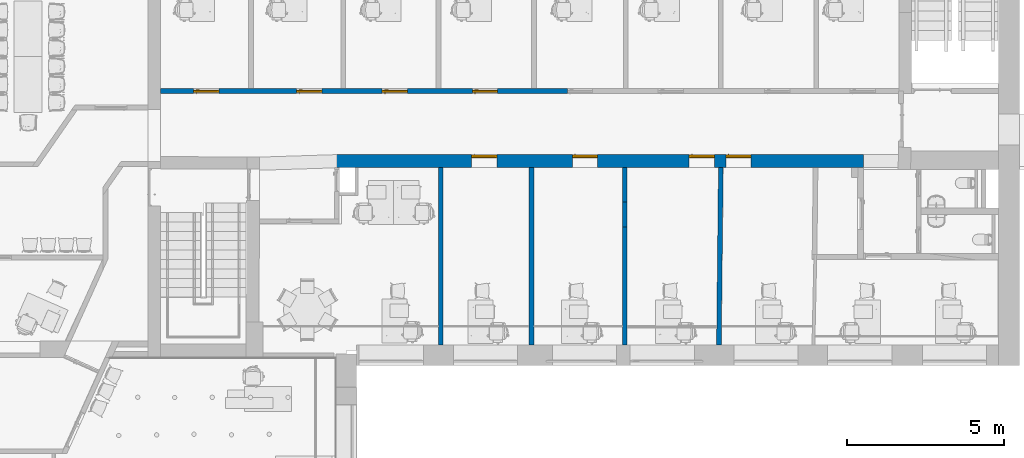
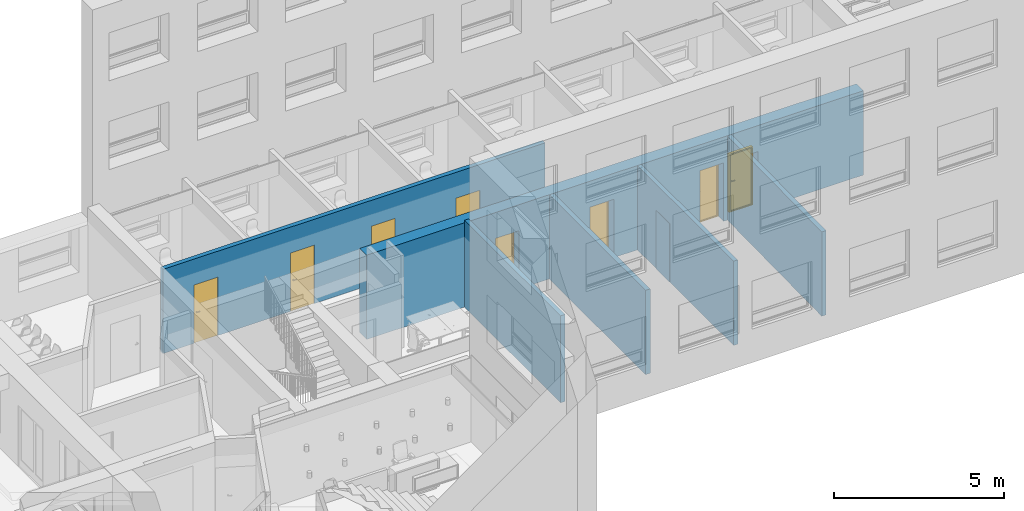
# One storey, part 7 of 25: 8 doors, 7 walls, 9 openings.
"""IFC2X3 building model written with IfcOpenShell, lengths in millimetres."""

from ifc_helpers import new_model, entity, si_unit, converted_unit, derived_unit, direction, frame, frame_2d, origin, place, context, subcontext, project, spatial, polyline, rectangle, outline, extrude, clip, bounded_halfspace, faceted_brep, source, transform, mapped, material, material_list, layer, layer_set, layer_usage, type_object, type_shapes, element, fill, save


model = new_model("IFC2X3")

# Units and contexts
model_context = context("Model", 3, precision=0.01, world=origin(), true_north=direction((6.12303176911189e-17, 1.0)))
context_of_model = context(None, 3, precision=0.01, world=origin(), true_north=direction((6.12303176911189e-17, 1.0)))
body_context = subcontext(model_context, "Body", "Model", "MODEL_VIEW")
ifc_project = project(units=[si_unit("LENGTHUNIT", "METRE", prefix="MILLI"), si_unit("AREAUNIT", "SQUARE_METRE"), si_unit("VOLUMEUNIT", "CUBIC_METRE"), converted_unit("PLANEANGLEUNIT", "DEGREE", entity("IfcRatioMeasure", 0.0174532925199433), si_unit("PLANEANGLEUNIT", "RADIAN"), dimensions=[0, 0, 0, 0, 0, 0, 0]), si_unit("MASSUNIT", "GRAM", prefix="KILO"), derived_unit("MASSDENSITYUNIT", [(si_unit("MASSUNIT", "GRAM", prefix="KILO"), 1), (si_unit("LENGTHUNIT", "METRE"), -3)]), si_unit("TIMEUNIT", "SECOND"), si_unit("FREQUENCYUNIT", "HERTZ"), si_unit("THERMODYNAMICTEMPERATUREUNIT", "DEGREE_CELSIUS"), derived_unit("THERMALTRANSMITTANCEUNIT", [(si_unit("MASSUNIT", "GRAM", prefix="KILO"), 1), (si_unit("THERMODYNAMICTEMPERATUREUNIT", "KELVIN"), -1), (si_unit("TIMEUNIT", "SECOND"), -3)]), derived_unit("VOLUMETRICFLOWRATEUNIT", [(si_unit("LENGTHUNIT", "METRE"), 3), (si_unit("TIMEUNIT", "SECOND"), -1)]), si_unit("ELECTRICCURRENTUNIT", "AMPERE"), si_unit("ELECTRICVOLTAGEUNIT", "VOLT"), si_unit("POWERUNIT", "WATT"), si_unit("FORCEUNIT", "NEWTON", prefix="KILO"), si_unit("ILLUMINANCEUNIT", "LUX"), si_unit("LUMINOUSFLUXUNIT", "LUMEN"), si_unit("LUMINOUSINTENSITYUNIT", "CANDELA"), derived_unit("USERDEFINED", [(si_unit("MASSUNIT", "GRAM", prefix="KILO"), -1), (si_unit("LENGTHUNIT", "METRE"), -2), (si_unit("TIMEUNIT", "SECOND"), 3), (si_unit("LUMINOUSFLUXUNIT", "LUMEN"), 1)]), derived_unit("LINEARVELOCITYUNIT", [(si_unit("LENGTHUNIT", "METRE"), 1), (si_unit("TIMEUNIT", "SECOND"), -1)]), si_unit("PRESSUREUNIT", "PASCAL"), derived_unit("USERDEFINED", [(si_unit("LENGTHUNIT", "METRE"), -2), (si_unit("MASSUNIT", "GRAM", prefix="KILO"), 1), (si_unit("TIMEUNIT", "SECOND"), -2)])], contexts=[model_context, context_of_model])

# Site, building, storey
site_placement = place(None, frame((121442.264707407, 135347.995453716, -1800.0)))
site = spatial("IfcSite", under=ifc_project, at=site_placement, Name="Surface", CompositionType="ELEMENT")
building_placement = place(site_placement, origin())
building = spatial("IfcBuilding", under=site, at=building_placement, CompositionType="ELEMENT")
storey_placement = place(building_placement, frame((0.0, 0.0, 1800.0)))
storey = spatial("IfcBuildingStorey", under=building, at=storey_placement, Name="1 korrus", CompositionType="ELEMENT", Elevation=1800.00000000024)

# Wall
ifc_material_1 = material(Name="__Betoonelement")
ifc_layer_1 = layer(ifc_material_1, 150.0)
ifc_layer_set_1 = layer_set([ifc_layer_1], Name="Basic Wall:15_Betoon")
ifc_layer_usage_1 = layer_usage(ifc_layer_set_1, "AXIS2", "POSITIVE", -75.0)
wall_type_1 = type_object("IfcWallType", Name="Basic Wall:15_Betoon", PredefinedType="STANDARD", material=ifc_layer_set_1)
wall_1_placement = place(storey_placement, frame((-91459.5491918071, -127136.784746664, 0.0), z_axis=(0.0, 0.0, 1.0), x_axis=(0.0107164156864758, 0.999942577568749, 0.0)))
element("IfcWallStandardCase", 1, at=wall_1_placement, inside=storey, type_object=wall_type_1, material=ifc_layer_usage_1, Name="Basic Wall:15_Betoon", ObjectType="Basic Wall:15_Betoon", context=body_context, shape_type="Clipping", body=[
    clip(extrude(outline(polyline([(5673.85441543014, -75.0), (5672.24686076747, 75.0), (0.0, 75.0), (1.60755466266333, -75.0), (5673.85441543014, -75.0)])), origin(), (0.0, 0.0, 1.0), 3032.0), bounded_halfspace(frame((1.60755466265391, -75.0, 3032.0), z_axis=(0.0, 0.0, -1.0), x_axis=(-0.999942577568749, -0.0107164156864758, 0.0)), True, frame((1.60755466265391, -75.0, 3032.0)), polyline([(0.0, 0.0), (5672.24686076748, 0.0), (5670.63930610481, 150.0), (-1.60755466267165, 150.0), (0.0, 0.0)]))),
])

# Wall, opening
ifc_layer_2 = layer(ifc_material_1, 140.0)
ifc_layer_set_2 = layer_set([ifc_layer_2], Name="Basic Wall:14_Betoon 2")
ifc_layer_usage_2 = layer_usage(ifc_layer_set_2, "AXIS2", "NEGATIVE", 70.0)
wall_type_2 = type_object("IfcWallType", Name="Basic Wall:14_Betoon 2", PredefinedType="STANDARD", material=ifc_layer_set_2)
wall_2_placement = place(storey_placement, frame((-94462.6040649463, -127135.981015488, 0.0), z_axis=(0.0, 0.0, 1.0), x_axis=(0.0, 1.0, 0.0)))
wall_2 = element("IfcWallStandardCase", 2, at=wall_2_placement, inside=storey, type_object=wall_type_2, material=ifc_layer_usage_2, Name="Basic Wall:14_Betoon 2", ObjectType="Basic Wall:14_Betoon 2", context=body_context, shape_type="Clipping", body=[
    clip(extrude(rectangle(XDim=5671.92114656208, YDim=140.000000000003, at=frame_2d((2835.96057328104, -7.74491581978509e-13), x_axis=(-1.0, 0.0))), origin(), (0.0, 0.0, 1.0), 3032.0), bounded_halfspace(frame((0.0, -70.0, 3032.0), z_axis=(0.0, 0.0, -1.0), x_axis=(-1.0, 0.0, 0.0)), True, frame((0.0, -70.0, 3032.0)), polyline([(0.0, 0.0), (5671.92114656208, 0.0), (5671.92114656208, 140.0), (0.0, 140.0), (0.0, 0.0)]))),
])
opening_1_placement = place(wall_2_placement, frame((127135.981015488, -94462.6040649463, 0.0), z_axis=(0.0, 0.0, 1.0), x_axis=(0.0, -1.0, 0.0)))
element("IfcOpeningElement", 3, at=opening_1_placement, cuts=wall_2, Name="Basic Wall:14_Betoon 2", ObjectType="Opening", context=body_context, shape_type="SweptSolid", body=[
    extrude(rectangle(XDim=2099.99999999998, YDim=810.000000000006, at=frame_2d((8.66862137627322e-12, 3.41060513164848e-13), x_axis=(0.0, 1.0))), frame((-93008.6040649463, -122969.059868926, 1050.0), z_axis=(-1.0, 0.0, 0.0), x_axis=(0.0, -1.0, 0.0)), (0.0, 0.0, 1.0), 3048.0),
])

# Wall
ifc_layer_3 = layer(ifc_material_1, 160.0)
ifc_layer_set_3 = layer_set([ifc_layer_3], Name="Basic Wall:16_Betoon 2")
ifc_layer_usage_3 = layer_usage(ifc_layer_set_3, "AXIS2", "NEGATIVE", 80.0)
wall_type_3 = type_object("IfcWallType", Name="Basic Wall:16_Betoon 2", PredefinedType="STANDARD", material=ifc_layer_set_3)
wall_3_placement = place(storey_placement, frame((-97448.6609993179, -127135.981015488, 0.0), z_axis=(0.0, 0.0, 1.0), x_axis=(0.0, 1.0, 0.0)))
element("IfcWallStandardCase", 4, at=wall_3_placement, inside=storey, type_object=wall_type_3, material=ifc_layer_usage_3, Name="Basic Wall:16_Betoon 2", ObjectType="Basic Wall:16_Betoon 2", context=body_context, shape_type="Clipping", body=[
    clip(extrude(rectangle(XDim=5671.92114656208, YDim=159.999999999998, at=frame_2d((2835.96057328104, -8.17124146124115e-13), x_axis=(-1.0, 0.0))), origin(), (0.0, 0.0, 1.0), 3032.0), bounded_halfspace(frame((0.0, -80.0, 3032.0), z_axis=(0.0, 0.0, -1.0), x_axis=(-1.0, 0.0, 0.0)), True, frame((0.0, -80.0, 3032.0)), polyline([(0.0, 0.0), (5671.92114656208, 0.0), (5671.92114656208, 160.0), (0.0, 160.0), (0.0, 0.0)]))),
])

# Wall, openings, doors
ifc_layer_4 = layer(ifc_material_1, 410.0)
ifc_layer_set_4 = layer_set([ifc_layer_4], Name="Basic Wall:41_Betoon 2")
ifc_layer_usage_4 = layer_usage(ifc_layer_set_4, "AXIS2", "NEGATIVE", 205.0)
wall_type_4 = type_object("IfcWallType", Name="Basic Wall:41_Betoon 2", PredefinedType="STANDARD", material=ifc_layer_set_4)
wall_4_placement = place(storey_placement, frame((-103739.740162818, -121259.059868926, 0.0)))
wall_4 = element("IfcWallStandardCase", 5, at=wall_4_placement, inside=storey, type_object=wall_type_4, material=ifc_layer_usage_4, Name="Basic Wall:41_Betoon 2", ObjectType="Basic Wall:41_Betoon 2", context=body_context, shape_type="Clipping", body=[
    clip(extrude(outline(polyline([(0.0, -205.0), (6211.07916350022, -205.0), (6371.07916350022, -205.0), (9207.13609787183, -205.0), (9347.13609787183, -205.0), (12265.9814329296, -205.0), (12415.990046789, -205.0), (15291.3772232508, -205.0), (15441.3872531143, -205.0), (16521.3601777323, -205.0), (16721.3601777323, -205.0), (16895.5473122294, -205.0), (16894.4533640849, 205.0), (0.0, 205.0), (0.0, -205.0)])), origin(), (0.0, 0.0, 1.0), 3032.0), bounded_halfspace(frame((0.0, -205.0, 3032.0), z_axis=(0.0, 0.0, -1.0), x_axis=(0.0, -1.0, 0.0)), True, frame((0.0, -205.0, 3032.0)), polyline([(0.0, 0.0), (6211.07916350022, 0.0), (6371.07916350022, 0.0), (9207.13609787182, 0.0), (9347.13609787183, 0.0), (12265.9814329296, 0.0), (12415.990046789, 0.0), (15291.3772232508, 0.0), (15441.3872531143, 0.0), (16521.3601777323, 0.0), (16721.3601777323, 0.0), (16895.5473122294, 0.0), (16894.4533640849, 410.0), (0.0, 410.0), (0.0, 0.0)]))),
])
opening_2_placement = place(wall_4_placement, frame((12501.3601777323, -205.0, 0.0)))
opening_2 = element("IfcOpeningElement", 6, at=opening_2_placement, cuts=wall_4, Name="sma_D01:810 x 2110_SU-01 Siseuks:1", ObjectType="Opening", context=body_context, shape_type="SweptSolid", body=[
    extrude(rectangle(XDim=2099.99999999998, YDim=810.0, at=frame_2d((1049.99999999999, 405.0), x_axis=(1.0, 0.0))), frame((0.0, 0.0, 0.0), z_axis=(0.0, 1.0, 0.0), x_axis=(0.0, 0.0, 1.0)), (0.0, 0.0, 1.0), 410.0),
])
opening_3_placement = place(wall_4_placement, frame((11331.3601777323, -205.0, 0.0)))
opening_3 = element("IfcOpeningElement", 7, at=opening_3_placement, cuts=wall_4, Name="sma_D01:810 x 2110_SU-01 Siseuks:1", ObjectType="Opening", context=body_context, shape_type="SweptSolid", body=[
    extrude(rectangle(XDim=2099.99999999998, YDim=810.0, at=frame_2d((1049.99999999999, 405.0), x_axis=(1.0, 0.0))), frame((0.0, 0.0, 0.0), z_axis=(0.0, 1.0, 0.0), x_axis=(0.0, 0.0, 1.0)), (0.0, 0.0, 1.0), 410.0),
])
opening_4_placement = place(wall_4_placement, frame((7597.13609787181, -205.0, 0.0)))
opening_4 = element("IfcOpeningElement", 8, at=opening_4_placement, cuts=wall_4, Name="sma_D01:810 x 2110_SU-01 Siseuks:1", ObjectType="Opening", context=body_context, shape_type="SweptSolid", body=[
    extrude(rectangle(XDim=2099.99999999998, YDim=810.0, at=frame_2d((1049.99999999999, 405.0), x_axis=(1.0, 0.0))), frame((0.0, 0.0, 0.0), z_axis=(0.0, 1.0, 0.0), x_axis=(0.0, 0.0, 1.0)), (0.0, 0.0, 1.0), 410.0),
])
opening_5_placement = place(wall_4_placement, frame((4376.52143838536, -205.0, 0.0)))
opening_5 = element("IfcOpeningElement", 9, at=opening_5_placement, cuts=wall_4, Name="sma_D01:810 x 2110_SU-01 Siseuks:1", ObjectType="Opening", context=body_context, shape_type="SweptSolid", body=[
    extrude(rectangle(XDim=2099.99999999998, YDim=810.0, at=frame_2d((1049.99999999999, 405.0), x_axis=(1.0, 0.0))), frame((0.0, 0.0, 0.0), z_axis=(0.0, 1.0, 0.0), x_axis=(0.0, 0.0, 1.0)), (0.0, 0.0, 1.0), 410.0),
])
ifc_material_2 = material(Name="Metal - Aluminium")
ifc_material_3 = material(Name="Door - Panel_valge")
ifc_material_list_1 = material_list([ifc_material_2, ifc_material_3])
ifc_material_list_2 = material_list([ifc_material_2, ifc_material_3])
door_style_1 = type_object("IfcDoorStyle", Name="810 x 2110_SU-01 Siseuks", ConstructionType="NOTDEFINED", OperationType="SINGLE_SWING_RIGHT", ParameterTakesPrecedence=False, Sizeable=False, material=ifc_material_list_2)
shared_shape_1 = source(origin(), body_context, "Body", "Brep", [
    faceted_brep([(100.0, 300.0, 1112.5), (100.0, 338.0, 1112.5), (75.0, 338.0, 1112.5), (75.0, 295.0, 1112.5), (195.0, 295.0, 1112.5), (195.0, 300.0, 1112.5), (100.0, 300.0, 1087.5), (195.0, 300.0, 1087.5), (195.0, 295.0, 1087.5), (75.0, 295.0, 1087.5), (75.0, 338.0, 1087.5), (100.0, 338.0, 1087.5)], [[[0, 1, 2, 3, 4, 5]], [[6, 7, 8, 9, 10, 11]], [[1, 0, 6, 11]], [[2, 1, 11, 10]], [[3, 2, 10, 9]], [[4, 3, 9, 8]], [[5, 4, 8, 7]], [[0, 5, 7, 6]]]),
    faceted_brep([(112.499999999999, 338.0, 1137.5), (112.499999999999, 340.0, 1137.5), (62.4999999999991, 340.0, 1137.5), (62.4999999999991, 338.0, 1137.5), (112.499999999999, 338.0, 1017.5), (62.4999999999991, 338.0, 1017.5), (62.4999999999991, 340.0, 1017.5), (112.499999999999, 340.0, 1017.5)], [[[0, 1, 2, 3]], [[4, 5, 6, 7]], [[1, 0, 4, 7]], [[2, 1, 7, 6]], [[3, 2, 6, 5]], [[0, 3, 5, 4]]]),
    faceted_brep([(100.0, 430.0, 1112.5), (195.0, 430.0, 1112.5), (195.0, 435.0, 1112.5), (75.0, 435.0, 1112.5), (75.0, 392.0, 1112.5), (100.0, 392.0, 1112.5), (100.0, 430.0, 1087.5), (100.0, 392.0, 1087.5), (75.0, 392.0, 1087.5), (75.0, 435.0, 1087.5), (195.0, 435.0, 1087.5), (195.0, 430.0, 1087.5)], [[[0, 1, 2, 3, 4, 5]], [[6, 7, 8, 9, 10, 11]], [[5, 7, 6, 0]], [[4, 8, 7, 5]], [[3, 9, 8, 4]], [[2, 10, 9, 3]], [[1, 11, 10, 2]], [[0, 6, 11, 1]]]),
    faceted_brep([(112.499999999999, 392.0, 1137.5), (62.4999999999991, 392.0, 1137.5), (62.4999999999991, 390.0, 1137.5), (112.499999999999, 390.0, 1137.5), (112.499999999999, 392.0, 1017.5), (112.499999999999, 390.0, 1017.5), (62.4999999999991, 390.0, 1017.5), (62.4999999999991, 392.0, 1017.5)], [[[0, 1, 2, 3]], [[4, 5, 6, 7]], [[3, 5, 4, 0]], [[2, 6, 5, 3]], [[1, 7, 6, 2]], [[0, 4, 7, 1]]]),
    faceted_brep([(810.0, 300.0, 0.0), (770.0, 300.0, 0.0), (770.0, 340.0, 0.0), (785.0, 340.0, 0.0), (785.0, 390.0, 0.0), (810.0, 390.0, 0.0), (810.0, 300.0, 2100.0), (0.0, 300.0, 2100.0), (0.0, 300.0, 0.0), (40.0, 300.0, 0.0), (40.0, 300.0, 2060.0), (770.0, 300.0, 2060.0), (770.0, 340.0, 2060.0), (40.0, 340.0, 2060.0), (40.0, 340.0, 0.0), (25.0, 340.0, 0.0), (25.0, 340.0, 2075.0), (785.0, 340.0, 2075.0), (785.0, 390.0, 2075.0), (25.0, 390.0, 2075.0), (25.0, 390.0, 0.0), (0.0, 390.0, 0.0), (0.0, 390.0, 2100.0), (810.0, 390.0, 2100.0)], [[[0, 1, 2, 3, 4, 5]], [[1, 0, 6, 7, 8, 9, 10, 11]], [[2, 1, 11, 12]], [[3, 2, 12, 13, 14, 15, 16, 17]], [[4, 3, 17, 18]], [[5, 4, 18, 19, 20, 21, 22, 23]], [[0, 5, 23, 6]], [[7, 22, 21, 8]], [[8, 21, 20, 15, 14, 9]], [[13, 10, 9, 14]], [[19, 16, 15, 20]], [[12, 11, 10, 13]], [[18, 17, 16, 19]], [[6, 23, 22, 7]]]),
    faceted_brep([(25.0, 340.0, 2075.0), (25.0, 340.0, 20.0), (785.0, 340.0, 20.0), (785.0, 340.0, 2075.0), (25.0, 390.0, 2075.0), (785.0, 390.0, 2075.0), (785.0, 390.0, 20.0), (25.0, 390.0, 20.0)], [[[0, 1, 2, 3]], [[4, 5, 6, 7]], [[1, 0, 4, 7]], [[2, 1, 7, 6]], [[3, 2, 6, 5]], [[0, 3, 5, 4]]]),
    faceted_brep([(770.0, 300.0, 30.0), (770.0, 300.0, 0.0), (770.0, 340.0, 0.0), (770.0, 340.0, 20.0), (770.0, 340.0, 30.0), (40.0, 300.0, 30.0), (40.0, 340.0, 30.0), (40.0, 340.0, 20.0), (40.0, 340.0, 0.0), (40.0, 300.0, 0.0), (25.0, 340.0, 0.0), (25.0, 390.0, 0.0), (785.0, 390.0, 0.0), (785.0, 340.0, 0.0), (785.0, 390.0, 20.0), (785.0, 340.0, 20.0), (25.0, 390.0, 20.0), (25.0, 340.0, 20.0)], [[[0, 1, 2, 3, 4]], [[5, 6, 7, 8, 9]], [[1, 0, 5, 9]], [[2, 1, 9, 8, 10, 11, 12, 13]], [[6, 4, 3, 7]], [[0, 4, 6, 5]], [[14, 15, 13, 12]], [[16, 11, 10, 17]], [[15, 14, 16, 17, 7, 3]], [[13, 15, 3, 2]], [[14, 12, 11, 16]], [[17, 10, 8, 7]]]),
])
type_shapes(door_style_1, [shared_shape_1])
door_1_placement = place(opening_2_placement, origin())
door_1 = element("IfcDoor", 10, at=door_1_placement, inside=storey, type_object=door_style_1, material=ifc_material_list_1, Name="sma_D01:810 x 2110_SU-01 Siseuks", ObjectType="810 x 2110_SU-01 Siseuks", OverallHeight=2099.99999999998, OverallWidth=810.000000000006, context=body_context, shape_type="MappedRepresentation", body=[
    mapped(shared_shape_1, transform((0.0, 0.0, 0.0), scale=1.0)),
])
fill(opening_2, door_1)
ifc_material_list_3 = material_list([ifc_material_2, ifc_material_3])
door_2_placement = place(opening_3_placement, origin())
door_2 = element("IfcDoor", 11, at=door_2_placement, inside=storey, type_object=door_style_1, material=ifc_material_list_3, Name="sma_D01:810 x 2110_SU-01 Siseuks", ObjectType="810 x 2110_SU-01 Siseuks", OverallHeight=2099.99999999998, OverallWidth=810.000000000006, context=body_context, shape_type="MappedRepresentation", body=[
    mapped(shared_shape_1, transform((0.0, 0.0, 0.0), scale=1.0)),
])
fill(opening_3, door_2)
ifc_material_list_4 = material_list([ifc_material_2, ifc_material_3])
door_3_placement = place(opening_4_placement, origin())
door_3 = element("IfcDoor", 12, at=door_3_placement, inside=storey, type_object=door_style_1, material=ifc_material_list_4, Name="sma_D01:810 x 2110_SU-01 Siseuks", ObjectType="810 x 2110_SU-01 Siseuks", OverallHeight=2099.99999999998, OverallWidth=810.000000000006, context=body_context, shape_type="MappedRepresentation", body=[
    mapped(shared_shape_1, transform((0.0, 0.0, 0.0), scale=1.0)),
])
fill(opening_4, door_3)
ifc_material_list_5 = material_list([ifc_material_2, ifc_material_3])
door_4_placement = place(opening_5_placement, origin())
door_4 = element("IfcDoor", 13, at=door_4_placement, inside=storey, type_object=door_style_1, material=ifc_material_list_5, Name="sma_D01:810 x 2110_SU-01 Siseuks", ObjectType="810 x 2110_SU-01 Siseuks", OverallHeight=2099.99999999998, OverallWidth=810.000000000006, context=body_context, shape_type="MappedRepresentation", body=[
    mapped(shared_shape_1, transform((0.0, 0.0, 0.0), scale=1.0)),
])
fill(opening_5, door_4)

# Wall
ifc_material_4 = material(Name="Plaster")
ifc_layer_5 = layer(ifc_material_4, 10.0)
ifc_material_5 = material(Name="EST. Müüritis. Väikeplokk. Kergkruusplokk")
ifc_layer_6 = layer(ifc_material_5, 130.0)
ifc_layer_7 = layer(ifc_material_4, 10.0)
ifc_layer_set_5 = layer_set([ifc_layer_5, ifc_layer_6, ifc_layer_7], Name="Basic Wall:15_FIBO")
ifc_layer_usage_5 = layer_usage(ifc_layer_set_5, "AXIS2", "POSITIVE", -75.0)
wall_type_5 = type_object("IfcWallType", Name="Basic Wall:15_FIBO", PredefinedType="STANDARD", material=ifc_layer_set_5)
wall_5_placement = place(storey_placement, frame((-100340.221402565, -127135.981015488, 0.0), z_axis=(0.0, 0.0, 1.0), x_axis=(0.0, 1.0, 0.0)))
element("IfcWallStandardCase", 14, at=wall_5_placement, inside=storey, type_object=wall_type_5, material=ifc_layer_usage_5, Name="Basic Wall:15_FIBO", ObjectType="Basic Wall:15_FIBO", context=body_context, shape_type="SweptSolid", body=[
    extrude(rectangle(XDim=5671.92114656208, YDim=150.000000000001, at=frame_2d((2835.96057328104, 0.0), x_axis=(-1.0, 0.0))), origin(), (0.0, 0.0, 1.0), 3125.0),
])

# Wall, openings, doors
ifc_layer_usage_6 = layer_usage(ifc_layer_set_5, "AXIS2", "NEGATIVE", 75.0)
wall_6_placement = place(storey_placement, frame((-96303.7766105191, -119019.76856454, 0.0), z_axis=(0.0, 0.0, 1.0), x_axis=(-1.0, 0.0, 0.0)))
wall_6 = element("IfcWallStandardCase", 15, at=wall_6_placement, inside=storey, type_object=wall_type_5, material=ifc_layer_usage_6, Name="Basic Wall:15_FIBO", ObjectType="Basic Wall:15_FIBO", context=body_context, shape_type="Clipping", body=[
    clip(extrude(rectangle(XDim=12989.2405303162, YDim=150.000000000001, at=frame_2d((6494.6202651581, 1.75504055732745e-12), x_axis=(-1.0, 0.0))), origin(), (0.0, 0.0, 1.0), 3032.0), bounded_halfspace(frame((0.0, -75.0, 3032.0), z_axis=(0.0, 0.0, -1.0), x_axis=(0.0, 1.0, 0.0)), True, frame((0.0, -75.0, 3032.0)), polyline([(0.0, 0.0), (4035.22268921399, 0.0), (4185.22268921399, 0.0), (7075.22268921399, 0.0), (7225.22268921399, 0.0), (10025.2226892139, 0.0), (10175.2226892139, 0.0), (12989.2405303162, 0.0), (12989.2405303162, 150.0), (0.0, 150.0), (0.0, 0.0)]))),
])
opening_6_placement = place(wall_6_placement, frame((2220.0, -75.0, 0.0)))
opening_6 = element("IfcOpeningElement", 16, at=opening_6_placement, cuts=wall_6, Name="sma_D01:810 x 2110_SU-01 Siseuks:1", ObjectType="Opening", context=body_context, shape_type="SweptSolid", body=[
    extrude(rectangle(XDim=2099.99999999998, YDim=810.0, at=frame_2d((1049.99999999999, 405.000000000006), x_axis=(1.0, 0.0))), frame((0.0, 0.0, 0.0), z_axis=(0.0, 1.0, 0.0), x_axis=(0.0, 0.0, 1.0)), (0.0, 0.0, 1.0), 150.0),
])
opening_7_placement = place(wall_6_placement, frame((5100.0, -75.0, 0.0)))
opening_7 = element("IfcOpeningElement", 17, at=opening_7_placement, cuts=wall_6, Name="sma_D01:810 x 2110_SU-01 Siseuks:1", ObjectType="Opening", context=body_context, shape_type="SweptSolid", body=[
    extrude(rectangle(XDim=2099.99999999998, YDim=810.0, at=frame_2d((1049.99999999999, 405.000000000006), x_axis=(1.0, 0.0))), frame((0.0, 0.0, 0.0), z_axis=(0.0, 1.0, 0.0), x_axis=(0.0, 0.0, 1.0)), (0.0, 0.0, 1.0), 150.0),
])
opening_8_placement = place(wall_6_placement, frame((7840.0, -75.0, 0.0)))
opening_8 = element("IfcOpeningElement", 18, at=opening_8_placement, cuts=wall_6, Name="sma_D01:810 x 2110_SU-01 Siseuks:1", ObjectType="Opening", context=body_context, shape_type="SweptSolid", body=[
    extrude(rectangle(XDim=2099.99999999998, YDim=810.0, at=frame_2d((1049.99999999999, 405.000000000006), x_axis=(1.0, 0.0))), frame((0.0, 0.0, 0.0), z_axis=(0.0, 1.0, 0.0), x_axis=(0.0, 0.0, 1.0)), (0.0, 0.0, 1.0), 150.0),
])
opening_9_placement = place(wall_6_placement, frame((11130.0, -75.0, 0.0)))
opening_9 = element("IfcOpeningElement", 19, at=opening_9_placement, cuts=wall_6, Name="sma_D01:810 x 2110_SU-01 Siseuks:1", ObjectType="Opening", context=body_context, shape_type="SweptSolid", body=[
    extrude(rectangle(XDim=2099.99999999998, YDim=810.0, at=frame_2d((1049.99999999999, 405.000000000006), x_axis=(1.0, 0.0))), frame((0.0, 0.0, 0.0), z_axis=(0.0, 1.0, 0.0), x_axis=(0.0, 0.0, 1.0)), (0.0, 0.0, 1.0), 150.0),
])
ifc_material_list_6 = material_list([ifc_material_2, ifc_material_3])
ifc_material_list_7 = material_list([ifc_material_2, ifc_material_3])
door_style_2 = type_object("IfcDoorStyle", Name="810 x 2110_SU-01 Siseuks", ConstructionType="NOTDEFINED", OperationType="SINGLE_SWING_LEFT", ParameterTakesPrecedence=False, Sizeable=False, material=ifc_material_list_7)
shared_shape_2 = source(origin(), body_context, "Body", "Brep", [
    faceted_brep([(710.0, 40.0, 1112.5), (615.0, 40.0, 1112.5), (615.0, 35.0, 1112.5), (735.0, 35.0, 1112.5), (735.0, 78.0, 1112.5), (710.0, 78.0, 1112.5), (710.0, 40.0, 1087.5), (710.0, 78.0, 1087.5), (735.0, 78.0, 1087.5), (735.0, 35.0, 1087.5), (615.0, 35.0, 1087.5), (615.0, 40.0, 1087.5)], [[[0, 1, 2, 3, 4, 5]], [[6, 7, 8, 9, 10, 11]], [[5, 7, 6, 0]], [[4, 8, 7, 5]], [[3, 9, 8, 4]], [[2, 10, 9, 3]], [[1, 11, 10, 2]], [[0, 6, 11, 1]]]),
    faceted_brep([(697.500000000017, 78.0, 1137.5), (747.500000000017, 78.0, 1137.5), (747.500000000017, 80.0, 1137.5), (697.500000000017, 80.0, 1137.5), (697.500000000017, 78.0, 1017.5), (697.500000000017, 80.0, 1017.5), (747.500000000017, 80.0, 1017.5), (747.500000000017, 78.0, 1017.5)], [[[0, 1, 2, 3]], [[4, 5, 6, 7]], [[3, 5, 4, 0]], [[2, 6, 5, 3]], [[1, 7, 6, 2]], [[0, 4, 7, 1]]]),
    faceted_brep([(710.0, 170.0, 1112.5), (710.0, 132.0, 1112.5), (735.0, 132.0, 1112.5), (735.0, 175.0, 1112.5), (615.0, 175.0, 1112.5), (615.0, 170.0, 1112.5), (710.0, 170.0, 1087.5), (615.0, 170.0, 1087.5), (615.0, 175.0, 1087.5), (735.0, 175.0, 1087.5), (735.0, 132.0, 1087.5), (710.0, 132.0, 1087.5)], [[[0, 1, 2, 3, 4, 5]], [[6, 7, 8, 9, 10, 11]], [[1, 0, 6, 11]], [[2, 1, 11, 10]], [[3, 2, 10, 9]], [[4, 3, 9, 8]], [[5, 4, 8, 7]], [[0, 5, 7, 6]]]),
    faceted_brep([(697.500000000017, 132.0, 1137.5), (697.500000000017, 130.0, 1137.5), (747.500000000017, 130.0, 1137.5), (747.500000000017, 132.0, 1137.5), (697.500000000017, 132.0, 1017.5), (747.500000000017, 132.0, 1017.5), (747.500000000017, 130.0, 1017.5), (697.500000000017, 130.0, 1017.5)], [[[0, 1, 2, 3]], [[4, 5, 6, 7]], [[1, 0, 4, 7]], [[2, 1, 7, 6]], [[3, 2, 6, 5]], [[0, 3, 5, 4]]]),
    faceted_brep([(0.0, 40.0, 0.0), (0.0, 130.0, 0.0), (25.0, 130.0, 0.0), (25.0, 80.0, 0.0), (40.0, 80.0, 0.0), (40.0, 40.0, 0.0), (40.0, 40.0, 2060.0), (770.0, 40.0, 2060.0), (770.0, 40.0, 0.0), (810.0, 40.0, 0.0), (810.0, 40.0, 2100.0), (0.0, 40.0, 2100.0), (40.0, 80.0, 2060.0), (25.0, 80.0, 2075.0), (785.0, 80.0, 2075.0), (785.0, 80.0, 0.0), (770.0, 80.0, 0.0), (770.0, 80.0, 2060.0), (25.0, 130.0, 2075.0), (0.0, 130.0, 2100.0), (810.0, 130.0, 2100.0), (810.0, 130.0, 0.0), (785.0, 130.0, 0.0), (785.0, 130.0, 2075.0)], [[[0, 1, 2, 3, 4, 5]], [[5, 6, 7, 8, 9, 10, 11, 0]], [[4, 12, 6, 5]], [[3, 13, 14, 15, 16, 17, 12, 4]], [[2, 18, 13, 3]], [[1, 19, 20, 21, 22, 23, 18, 2]], [[0, 11, 19, 1]], [[10, 9, 21, 20]], [[9, 8, 16, 15, 22, 21]], [[17, 16, 8, 7]], [[23, 22, 15, 14]], [[12, 17, 7, 6]], [[18, 23, 14, 13]], [[11, 10, 20, 19]]]),
    faceted_brep([(785.0, 80.0, 2075.0), (25.0, 80.0, 2075.0), (25.0, 80.0, 20.0), (785.0, 80.0, 20.0), (785.0, 130.0, 2075.0), (785.0, 130.0, 20.0), (25.0, 130.0, 20.0), (25.0, 130.0, 2075.0)], [[[0, 1, 2, 3]], [[4, 5, 6, 7]], [[3, 5, 4, 0]], [[2, 6, 5, 3]], [[1, 7, 6, 2]], [[0, 4, 7, 1]]]),
    faceted_brep([(40.0, 40.0, 30.0), (40.0, 80.0, 30.0), (40.0, 80.0, 20.0), (40.0, 80.0, 0.0), (40.0, 40.0, 0.0), (770.0, 40.0, 30.0), (770.0, 40.0, 0.0), (770.0, 80.0, 0.0), (770.0, 80.0, 20.0), (770.0, 80.0, 30.0), (25.0, 80.0, 0.0), (25.0, 130.0, 0.0), (785.0, 130.0, 0.0), (785.0, 80.0, 0.0), (25.0, 130.0, 20.0), (25.0, 80.0, 20.0), (785.0, 130.0, 20.0), (785.0, 80.0, 20.0)], [[[0, 1, 2, 3, 4]], [[5, 6, 7, 8, 9]], [[4, 6, 5, 0]], [[3, 10, 11, 12, 13, 7, 6, 4]], [[9, 8, 2, 1]], [[0, 5, 9, 1]], [[14, 11, 10, 15]], [[16, 17, 13, 12]], [[15, 2, 8, 17, 16, 14]], [[10, 3, 2, 15]], [[14, 16, 12, 11]], [[17, 8, 7, 13]]]),
])
type_shapes(door_style_2, [shared_shape_2])
door_5_placement = place(opening_6_placement, origin())
door_5 = element("IfcDoor", 20, at=door_5_placement, inside=storey, type_object=door_style_2, material=ifc_material_list_6, Name="sma_D01:810 x 2110_SU-01 Siseuks", ObjectType="810 x 2110_SU-01 Siseuks", OverallHeight=2099.99999999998, OverallWidth=810.000000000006, context=body_context, shape_type="MappedRepresentation", body=[
    mapped(shared_shape_2, transform((0.0, 0.0, 0.0), scale=1.0)),
])
fill(opening_6, door_5)
ifc_material_list_8 = material_list([ifc_material_2, ifc_material_3])
door_6_placement = place(opening_7_placement, origin())
door_6 = element("IfcDoor", 21, at=door_6_placement, inside=storey, type_object=door_style_2, material=ifc_material_list_8, Name="sma_D01:810 x 2110_SU-01 Siseuks", ObjectType="810 x 2110_SU-01 Siseuks", OverallHeight=2099.99999999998, OverallWidth=810.000000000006, context=body_context, shape_type="MappedRepresentation", body=[
    mapped(shared_shape_2, transform((0.0, 0.0, 0.0), scale=1.0)),
])
fill(opening_7, door_6)
ifc_material_list_9 = material_list([ifc_material_2, ifc_material_3])
door_7_placement = place(opening_8_placement, origin())
door_7 = element("IfcDoor", 22, at=door_7_placement, inside=storey, type_object=door_style_2, material=ifc_material_list_9, Name="sma_D01:810 x 2110_SU-01 Siseuks", ObjectType="810 x 2110_SU-01 Siseuks", OverallHeight=2099.99999999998, OverallWidth=810.000000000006, context=body_context, shape_type="MappedRepresentation", body=[
    mapped(shared_shape_2, transform((0.0, 0.0, 0.0), scale=1.0)),
])
fill(opening_8, door_7)
ifc_material_list_10 = material_list([ifc_material_2, ifc_material_3])
door_8_placement = place(opening_9_placement, origin())
door_8 = element("IfcDoor", 23, at=door_8_placement, inside=storey, type_object=door_style_2, material=ifc_material_list_10, Name="sma_D01:810 x 2110_SU-01 Siseuks", ObjectType="810 x 2110_SU-01 Siseuks", OverallHeight=2099.99999999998, OverallWidth=810.000000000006, context=body_context, shape_type="MappedRepresentation", body=[
    mapped(shared_shape_2, transform((0.0, 0.0, 0.0), scale=1.0)),
])
fill(opening_9, door_8)

# Wall
ifc_layer_usage_7 = layer_usage(ifc_layer_set_5, "AXIS2", "NEGATIVE", 75.0)
wall_7_placement = place(storey_placement, frame((-94462.6040649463, -123374.059868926, 0.0), z_axis=(0.0, 0.0, 1.0), x_axis=(0.0, 1.0, 0.0)))
element("IfcWallStandardCase", 24, at=wall_7_placement, inside=storey, type_object=wall_type_5, material=ifc_layer_usage_7, Name="Basic Wall:15_FIBO", ObjectType="Basic Wall:15_FIBO", context=body_context, shape_type="SweptSolid", body=[
    extrude(rectangle(XDim=810.000000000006, YDim=150.000000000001, at=frame_2d((405.000000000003, 1.12976294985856e-12), x_axis=(-1.0, 0.0))), origin(), (0.0, 0.0, 1.0), 2099.99999999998),
])

save(model, "model.ifc")
